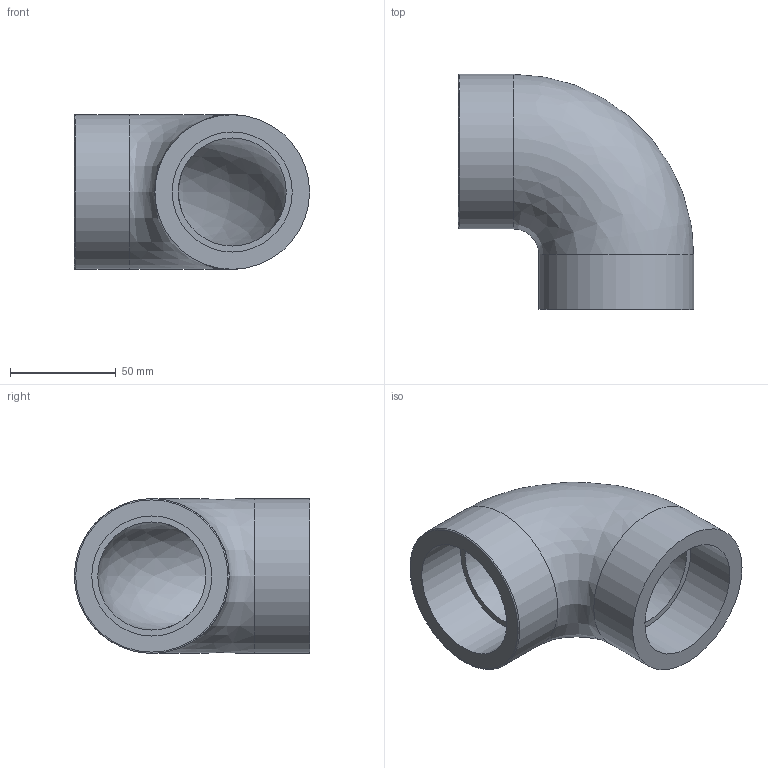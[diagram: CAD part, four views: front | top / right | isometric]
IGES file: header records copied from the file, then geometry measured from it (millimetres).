
Global section: file name: 050501020.ipt; native system: Autodesk Inventor 2015; preprocessor: unknown; author: KIM; date: 20171207.164656; units: millimetre
Bounding box: 111 x 111 x 73 mm (x, y, z)
Volume: 249816.7 mm3; surface area: 55087.3 mm2
Topology: 1 solids, 1 shells, 11 faces, 25 edges, 18 vertices
Faces by surface type: revolution 5, plane 4, cylinder 2
Full cylindrical faces by diameter (mm): 73 x2
